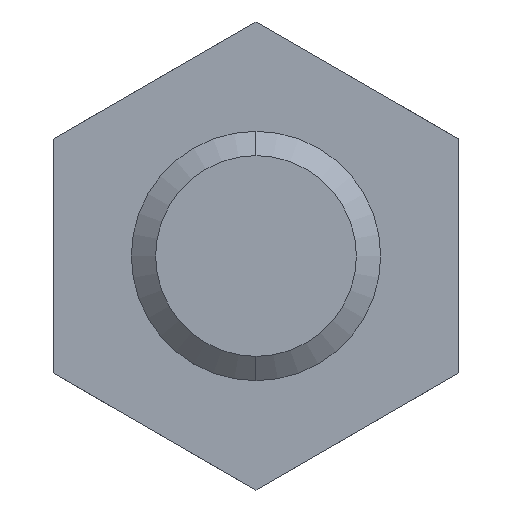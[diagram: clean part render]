
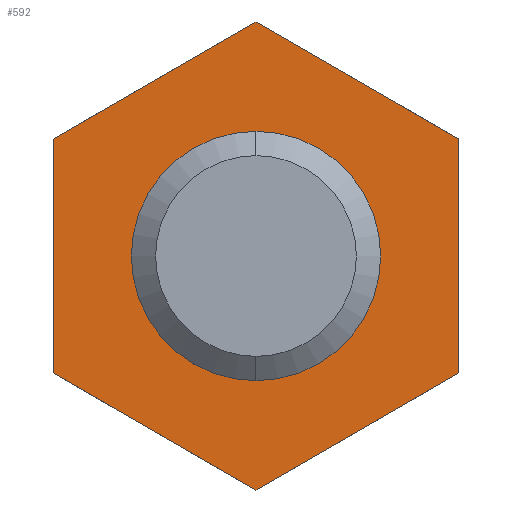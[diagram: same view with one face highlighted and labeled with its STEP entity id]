
A CAD part, front view. The second image highlights one B-rep face of the part: STEP entity #592.
In plain terms, the highlighted planar face has unit normal (0, -1, 0).
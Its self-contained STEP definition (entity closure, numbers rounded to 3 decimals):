
#6 = EDGE_CURVE ( 'NONE', #7, #11, #1302, .T. ) ;
#7 = VERTEX_POINT ( 'NONE', #1297 ) ;
#11 = VERTEX_POINT ( 'NONE', #1287 ) ;
#62 = VERTEX_POINT ( 'NONE', #1390 ) ;
#64 = EDGE_CURVE ( 'NONE', #62, #69, #1389, .T. ) ;
#69 = VERTEX_POINT ( 'NONE', #1381 ) ;
#592 = ADVANCED_FACE ( 'NONE', ( #2317, #2313 ), #2312, .T. ) ;
#593 = EDGE_LOOP ( 'NONE', ( #594, #595 ) ) ;
#594 = ORIENTED_EDGE ( 'NONE', *, *, #6, .T. ) ;
#595 = ORIENTED_EDGE ( 'NONE', *, *, #596, .T. ) ;
#596 = EDGE_CURVE ( 'NONE', #11, #7, #2310, .T. ) ;
#597 = EDGE_LOOP ( 'NONE', ( #598, #599, #600, #653, #654, #655 ) ) ;
#598 = ORIENTED_EDGE ( 'NONE', *, *, #64, .T. ) ;
#599 = ORIENTED_EDGE ( 'NONE', *, *, #1172, .T. ) ;
#600 = ORIENTED_EDGE ( 'NONE', *, *, #1234, .T. ) ;
#653 = ORIENTED_EDGE ( 'NONE', *, *, #1214, .T. ) ;
#654 = ORIENTED_EDGE ( 'NONE', *, *, #1218, .T. ) ;
#655 = ORIENTED_EDGE ( 'NONE', *, *, #1264, .T. ) ;
#1162 = VERTEX_POINT ( 'NONE', #3340 ) ;
#1169 = VERTEX_POINT ( 'NONE', #3332 ) ;
#1172 = EDGE_CURVE ( 'NONE', #69, #1169, #3331, .T. ) ;
#1212 = VERTEX_POINT ( 'NONE', #3417 ) ;
#1214 = EDGE_CURVE ( 'NONE', #1162, #1212, #3416, .T. ) ;
#1216 = VERTEX_POINT ( 'NONE', #3408 ) ;
#1218 = EDGE_CURVE ( 'NONE', #1212, #1216, #3460, .T. ) ;
#1234 = EDGE_CURVE ( 'NONE', #1169, #1162, #3472, .T. ) ;
#1264 = EDGE_CURVE ( 'NONE', #1216, #62, #3528, .T. ) ;
#1287 = CARTESIAN_POINT ( 'NONE',  ( 4., 25., 0. ) ) ;
#1297 = CARTESIAN_POINT ( 'NONE',  ( -4., 25., 0. ) ) ;
#1298 = DIRECTION ( 'NONE',  ( -1., 0., 0. ) ) ;
#1299 = DIRECTION ( 'NONE',  ( 0., 1., 0. ) ) ;
#1300 = CARTESIAN_POINT ( 'NONE',  ( 0., 25., 0. ) ) ;
#1301 = AXIS2_PLACEMENT_3D ( 'NONE', #1300, #1299, #1298 ) ;
#1302 = CIRCLE ( 'NONE', #1301, 4. ) ;
#1381 = CARTESIAN_POINT ( 'NONE',  ( 0., 25., 7.506 ) ) ;
#1386 = DIRECTION ( 'NONE',  ( -0.866, 0., 0.5 ) ) ;
#1387 = VECTOR ( 'NONE', #1386, 1000. ) ;
#1388 = CARTESIAN_POINT ( 'NONE',  ( 6.5, 25., 3.753 ) ) ;
#1389 = LINE ( 'NONE', #1388, #1387 ) ;
#1390 = CARTESIAN_POINT ( 'NONE',  ( 6.5, 25., 3.753 ) ) ;
#2303 = DIRECTION ( 'NONE',  ( -1., 0., 0. ) ) ;
#2304 = DIRECTION ( 'NONE',  ( 0., 1., 0. ) ) ;
#2305 = CARTESIAN_POINT ( 'NONE',  ( 0., 25., 0. ) ) ;
#2306 = AXIS2_PLACEMENT_3D ( 'NONE', #2305, #2304, #2303 ) ;
#2307 = DIRECTION ( 'NONE',  ( 1., 0., 0. ) ) ;
#2308 = DIRECTION ( 'NONE',  ( 0., -1., 0. ) ) ;
#2309 = CARTESIAN_POINT ( 'NONE',  ( -4., 25., 0. ) ) ;
#2310 = CIRCLE ( 'NONE', #2306, 4. ) ;
#2311 = AXIS2_PLACEMENT_3D ( 'NONE', #2309, #2308, #2307 ) ;
#2312 = PLANE ( 'NONE',  #2311 ) ;
#2313 = FACE_OUTER_BOUND ( 'NONE', #597, .T. ) ;
#2317 = FACE_BOUND ( 'NONE', #593, .T. ) ;
#3328 = DIRECTION ( 'NONE',  ( -0.866, 0., -0.5 ) ) ;
#3329 = VECTOR ( 'NONE', #3328, 1000. ) ;
#3330 = CARTESIAN_POINT ( 'NONE',  ( 0., 25., 7.506 ) ) ;
#3331 = LINE ( 'NONE', #3330, #3329 ) ;
#3332 = CARTESIAN_POINT ( 'NONE',  ( -6.5, 25., 3.753 ) ) ;
#3340 = CARTESIAN_POINT ( 'NONE',  ( -6.5, 25., -3.753 ) ) ;
#3408 = CARTESIAN_POINT ( 'NONE',  ( 6.5, 25., -3.753 ) ) ;
#3413 = DIRECTION ( 'NONE',  ( 0.866, 0., -0.5 ) ) ;
#3414 = VECTOR ( 'NONE', #3413, 1000. ) ;
#3415 = CARTESIAN_POINT ( 'NONE',  ( -6.5, 25., -3.753 ) ) ;
#3416 = LINE ( 'NONE', #3415, #3414 ) ;
#3417 = CARTESIAN_POINT ( 'NONE',  ( 0., 25., -7.506 ) ) ;
#3457 = DIRECTION ( 'NONE',  ( 0.866, 0., 0.5 ) ) ;
#3458 = VECTOR ( 'NONE', #3457, 1000. ) ;
#3459 = CARTESIAN_POINT ( 'NONE',  ( 0., 25., -7.506 ) ) ;
#3460 = LINE ( 'NONE', #3459, #3458 ) ;
#3469 = DIRECTION ( 'NONE',  ( 0., 0., -1. ) ) ;
#3470 = VECTOR ( 'NONE', #3469, 1000. ) ;
#3471 = CARTESIAN_POINT ( 'NONE',  ( -6.5, 25., 3.753 ) ) ;
#3472 = LINE ( 'NONE', #3471, #3470 ) ;
#3525 = DIRECTION ( 'NONE',  ( 0., 0., 1. ) ) ;
#3526 = VECTOR ( 'NONE', #3525, 1000. ) ;
#3527 = CARTESIAN_POINT ( 'NONE',  ( 6.5, 25., -3.753 ) ) ;
#3528 = LINE ( 'NONE', #3527, #3526 ) ;
